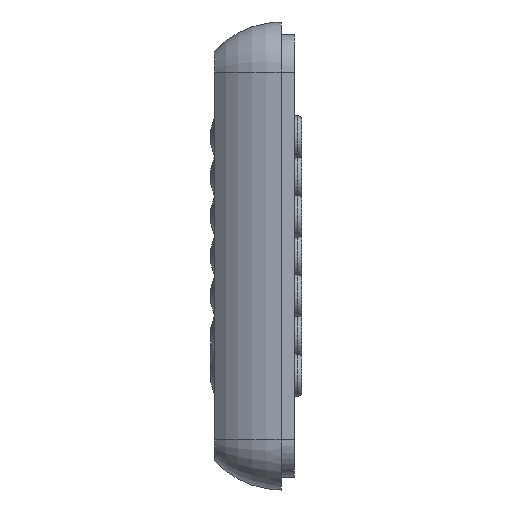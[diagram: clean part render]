
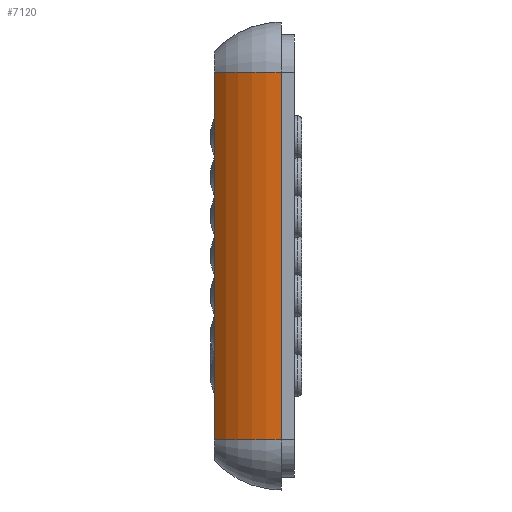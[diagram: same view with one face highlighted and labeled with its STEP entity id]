
A CAD part, left-side view. The second image highlights one B-rep face of the part: STEP entity #7120.
In plain terms, the highlighted cylindrical face has radius 10.893 mm (diameter 21.786 mm), a partial arc.
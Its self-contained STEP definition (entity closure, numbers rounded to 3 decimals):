
#407=CYLINDRICAL_SURFACE('',#7959,10.893);
#439=LINE('',#12285,#491);
#443=LINE('',#12306,#495);
#491=VECTOR('',#9478,1000.);
#495=VECTOR('',#9496,1000.);
#688=ORIENTED_EDGE('',*,*,#2170,.T.);
#689=ORIENTED_EDGE('',*,*,#2162,.T.);
#690=ORIENTED_EDGE('',*,*,#2171,.F.);
#691=ORIENTED_EDGE('',*,*,#2172,.T.);
#2162=EDGE_CURVE('',#2903,#2904,#439,.T.);
#2170=EDGE_CURVE('',#2911,#2903,#3608,.T.);
#2171=EDGE_CURVE('',#2912,#2904,#3609,.T.);
#2172=EDGE_CURVE('',#2912,#2911,#443,.T.);
#2903=VERTEX_POINT('',#12286);
#2904=VERTEX_POINT('',#12287);
#2911=VERTEX_POINT('',#12303);
#2912=VERTEX_POINT('',#12305);
#3608=CIRCLE('',#7960,10.893);
#3609=CIRCLE('',#7961,10.893);
#4288=EDGE_LOOP('',(#688,#689,#690,#691));
#5632=FACE_BOUND('',#4288,.T.);
#7120=ADVANCED_FACE('',(#5632),#407,.T.);
#7959=AXIS2_PLACEMENT_3D('',#12301,#9490,#9491);
#7960=AXIS2_PLACEMENT_3D('',#12302,#9492,#9493);
#7961=AXIS2_PLACEMENT_3D('',#12304,#9494,#9495);
#9478=DIRECTION('',(0.,0.,1.));
#9490=DIRECTION('',(0.,0.,-1.));
#9491=DIRECTION('',(-1.,0.,0.));
#9492=DIRECTION('',(0.,0.,1.));
#9493=DIRECTION('',(1.,0.,0.));
#9494=DIRECTION('',(0.,0.,1.));
#9495=DIRECTION('',(1.,0.,0.));
#9496=DIRECTION('',(0.,0.,-1.));
#12285=CARTESIAN_POINT('',(-77.,0.,-22.));
#12286=CARTESIAN_POINT('',(-77.,0.,-22.));
#12287=CARTESIAN_POINT('',(-77.,0.,22.));
#12301=CARTESIAN_POINT('',(-66.107,0.,22.));
#12302=CARTESIAN_POINT('',(-66.107,0.,-22.));
#12303=CARTESIAN_POINT('',(-73.5,8.,-22.));
#12304=CARTESIAN_POINT('',(-66.107,0.,22.));
#12305=CARTESIAN_POINT('',(-73.5,8.,22.));
#12306=CARTESIAN_POINT('',(-73.5,8.,22.));
